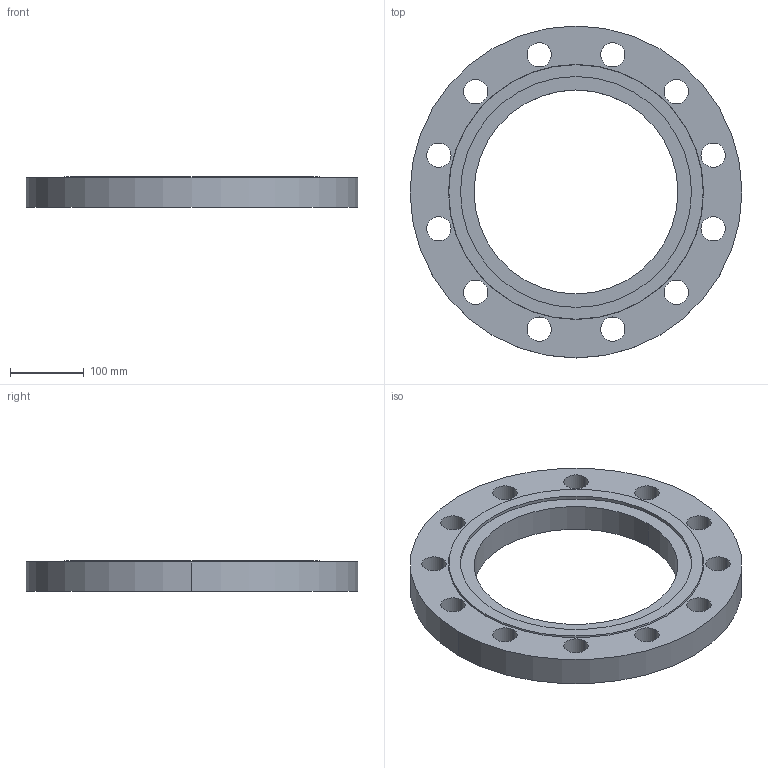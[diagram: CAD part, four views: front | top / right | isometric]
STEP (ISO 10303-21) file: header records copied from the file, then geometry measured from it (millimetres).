
FILE_DESCRIPTION (( 'STEP AP214' ), '1' );
FILE_NAME ('PN40 DN250 Type 01 - Type F Face.STEP', '2019-01-05T16:39:30', ( '' ), ( '' ), 'SwSTEP 2.0', 'SolidWorks 2019', '' );
FILE_SCHEMA (( 'AUTOMOTIVE_DESIGN' ));
Length unit declared in the file: millimetre
Products named in the file (1): PN40 DN250 Type 01 - Type F Face
Bounding box: 450 x 450 x 42 mm (x, y, z)
Volume: 3540572.7 mm3; surface area: 322599.8 mm2
Topology: 1 solids, 1 shells, 36 faces, 96 edges, 64 vertices
Faces by surface type: cylinder 30, plane 4, cone 2
Entity records: 1250 total; most frequent: DIRECTION 234, CARTESIAN_POINT 197, ORIENTED_EDGE 192, AXIS2_PLACEMENT_3D 101, EDGE_CURVE 96, CIRCLE 64, VERTEX_POINT 64, EDGE_LOOP 64
